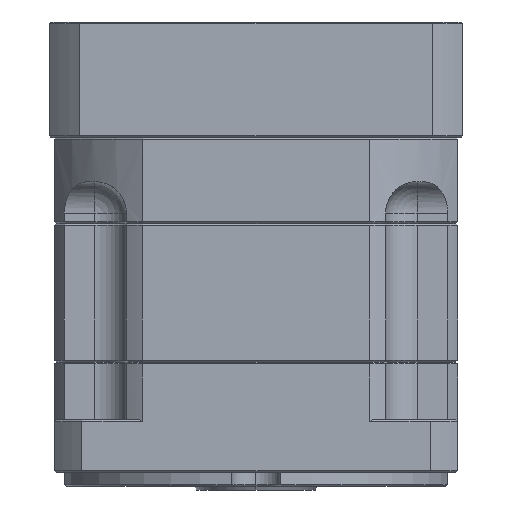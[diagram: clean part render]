
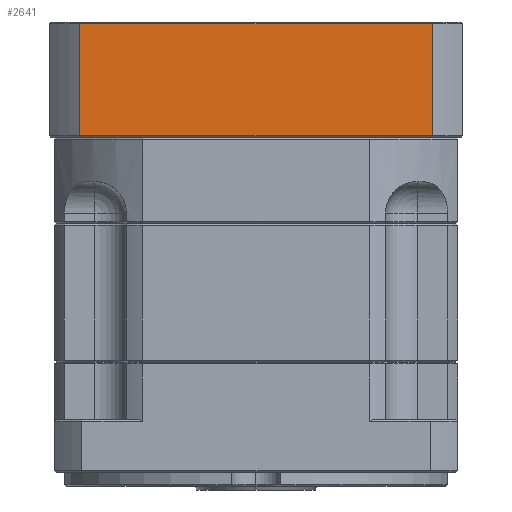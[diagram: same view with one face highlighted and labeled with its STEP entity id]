
A CAD part, left-side view. The second image highlights one B-rep face of the part: STEP entity #2641.
In plain terms, the highlighted planar face has unit normal (-1, 0, 0).
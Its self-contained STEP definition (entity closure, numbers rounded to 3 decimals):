
#2641 = ADVANCED_FACE ( 'NONE', ( #58228 ), #16255, .F. ) ;
#3193 = ORIENTED_EDGE ( 'NONE', *, *, #82011, .T. ) ;
#3723 = CARTESIAN_POINT ( 'NONE',  ( -4.013, 136.12, 37.835 ) ) ;
#6484 = EDGE_LOOP ( 'NONE', ( #71736, #3193, #52030, #73128 ) ) ;
#13343 = VERTEX_POINT ( 'NONE', #19164 ) ;
#16255 = PLANE ( 'NONE',  #72519 ) ;
#16997 = EDGE_CURVE ( 'NONE', #13343, #85629, #60600, .T. ) ;
#17966 = VECTOR ( 'NONE', #71595, 1000. ) ;
#19164 = CARTESIAN_POINT ( 'NONE',  ( -4.013, 136.12, 5.335 ) ) ;
#19334 = CARTESIAN_POINT ( 'NONE',  ( -4.013, 35.617, 5.335 ) ) ;
#20412 = CARTESIAN_POINT ( 'NONE',  ( -4.013, 35.617, 37.335 ) ) ;
#21854 = LINE ( 'NONE', #23383, #85109 ) ;
#23383 = CARTESIAN_POINT ( 'NONE',  ( -4.013, 136.12, 37.335 ) ) ;
#29577 = VERTEX_POINT ( 'NONE', #20412 ) ;
#33138 = DIRECTION ( 'NONE',  ( 0., 1., 0. ) ) ;
#37341 = DIRECTION ( 'NONE',  ( 0., -1., 0. ) ) ;
#43590 = VECTOR ( 'NONE', #37341, 1000. ) ;
#45904 = LINE ( 'NONE', #116451, #17966 ) ;
#47197 = DIRECTION ( 'NONE',  ( 0., 0., -1. ) ) ;
#49823 = VERTEX_POINT ( 'NONE', #81202 ) ;
#52030 = ORIENTED_EDGE ( 'NONE', *, *, #61888, .T. ) ;
#58228 = FACE_OUTER_BOUND ( 'NONE', #6484, .T. ) ;
#60600 = LINE ( 'NONE', #19334, #43590 ) ;
#61888 = EDGE_CURVE ( 'NONE', #49823, #13343, #63676, .T. ) ;
#63676 = LINE ( 'NONE', #3723, #100260 ) ;
#71595 = DIRECTION ( 'NONE',  ( 0., 0., -1. ) ) ;
#71729 = CARTESIAN_POINT ( 'NONE',  ( -4.013, 35.617, 5.335 ) ) ;
#71736 = ORIENTED_EDGE ( 'NONE', *, *, #93183, .F. ) ;
#72519 = AXIS2_PLACEMENT_3D ( 'NONE', #88156, #104317, #33138 ) ;
#73128 = ORIENTED_EDGE ( 'NONE', *, *, #16997, .T. ) ;
#81202 = CARTESIAN_POINT ( 'NONE',  ( -4.013, 136.12, 37.335 ) ) ;
#82011 = EDGE_CURVE ( 'NONE', #29577, #49823, #21854, .T. ) ;
#85109 = VECTOR ( 'NONE', #86294, 1000. ) ;
#85629 = VERTEX_POINT ( 'NONE', #71729 ) ;
#86294 = DIRECTION ( 'NONE',  ( 0., 1., 0. ) ) ;
#88156 = CARTESIAN_POINT ( 'NONE',  ( -4.013, 35.617, 37.835 ) ) ;
#93183 = EDGE_CURVE ( 'NONE', #29577, #85629, #45904, .T. ) ;
#100260 = VECTOR ( 'NONE', #47197, 1000. ) ;
#104317 = DIRECTION ( 'NONE',  ( 1., 0., 0. ) ) ;
#116451 = CARTESIAN_POINT ( 'NONE',  ( -4.013, 35.617, 37.835 ) ) ;
